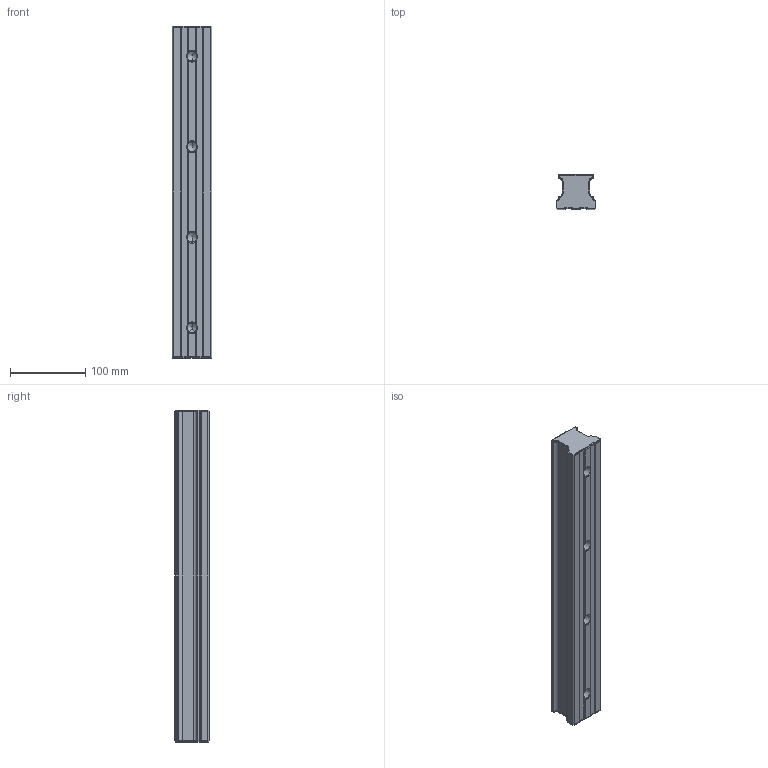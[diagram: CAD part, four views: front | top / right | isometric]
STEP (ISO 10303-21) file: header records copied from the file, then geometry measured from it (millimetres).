
FILE_DESCRIPTION (( 'STEP AP214' ), '1' );
FILE_NAME ('ARU 55-rail.STEP', '2017-02-24T05:31:54', ( '' ), ( '' ), 'SwSTEP 2.0', 'SolidWorks 2010', '' );
FILE_SCHEMA (( 'AUTOMOTIVE_DESIGN' ));
Length unit declared in the file: millimetre
Products named in the file (1): ARU 55-rail
Bounding box: 53 x 45.7 x 440 mm (x, y, z)
Volume: 837593.6 mm3; surface area: 99100.2 mm2
Topology: 1 solids, 1 shells, 309 faces, 760 edges, 449 vertices
Faces by surface type: plane 150, cone 94, cylinder 65
Entity records: 9029 total; most frequent: CARTESIAN_POINT 2055, ORIENTED_EDGE 1504, DIRECTION 1389, EDGE_CURVE 752, AXIS2_PLACEMENT_3D 471, VERTEX_POINT 449, VECTOR 447, LINE 447
